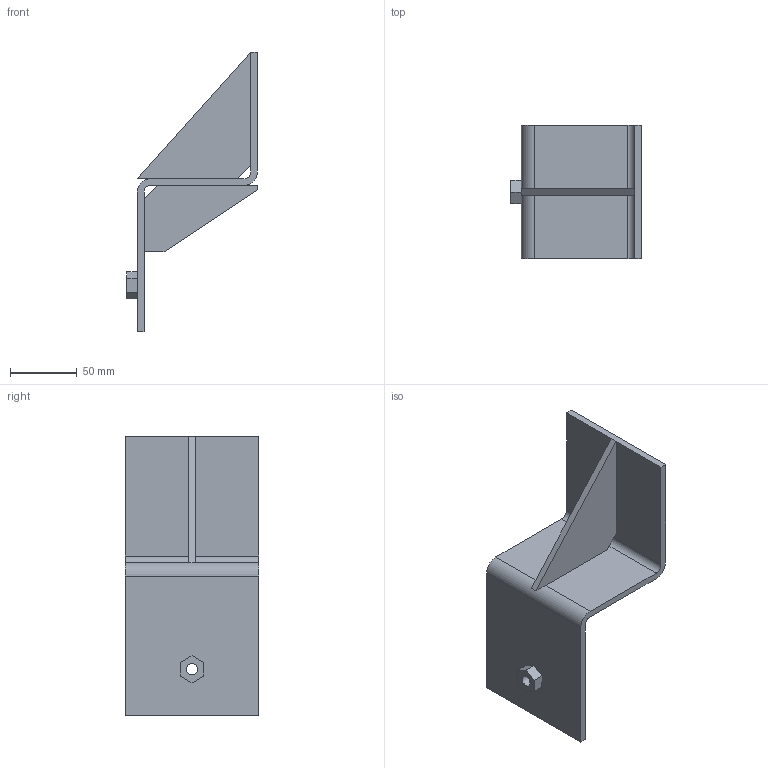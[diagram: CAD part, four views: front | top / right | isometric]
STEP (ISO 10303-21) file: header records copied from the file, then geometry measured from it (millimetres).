
FILE_DESCRIPTION(/* description */ (''),/* implementation_level */ '2;1');
FILE_NAME(/* name */ '2020TOMO-TELAIO-ASSY.00_v12-Part_08.stp',/* time_stamp */ '2022-05-16T13:34:38+02:00',/* author */ (''),/* organization */ (''),/* preprocessor_version */ 'ST-DEVELOPER v18.102',/* originating_system */ 'SIEMENS PLM Software NX 2000',/* authorisation */ '');
FILE_SCHEMA (('AUTOMOTIVE_DESIGN { 1 0 10303 214 3 1 1 1 }'));
Length unit declared in the file: millimetre
Products named in the file (1): turc3144724Fyy6p
Bounding box: 98 x 100 x 210 mm (x, y, z)
Volume: 178335.4 mm3; surface area: 78497.5 mm2
Topology: 4 solids, 4 shells, 38 faces, 92 edges, 62 vertices
Faces by surface type: plane 32, cylinder 6
Full cylindrical faces by diameter (mm): 8.5 x1, 10.5 x1
Entity records: 1154 total; most frequent: CARTESIAN_POINT 189, DIRECTION 182, ORIENTED_EDGE 176, EDGE_CURVE 88, LINE 76, VECTOR 76, VERTEX_POINT 60, AXIS2_PLACEMENT_3D 53
